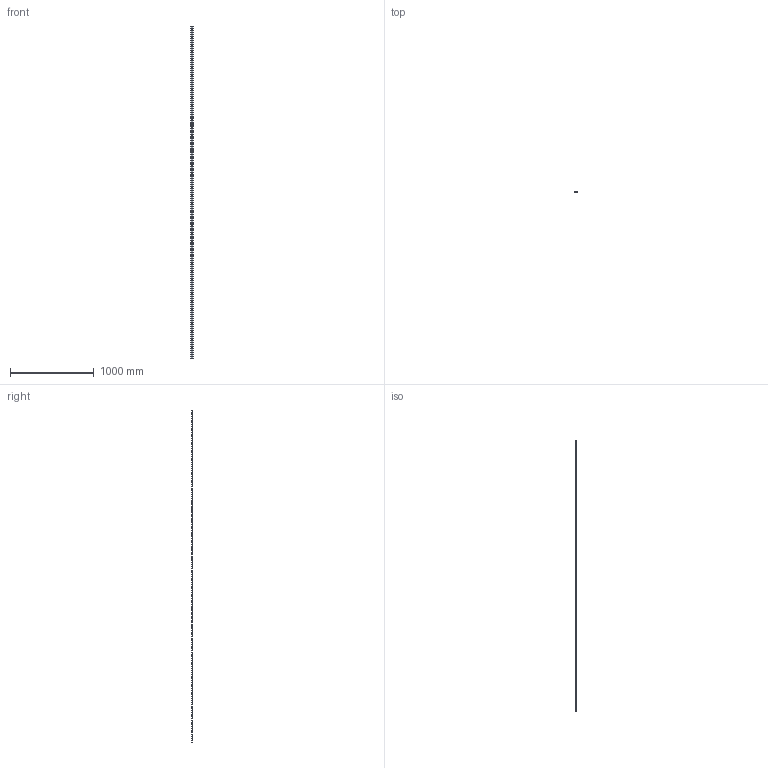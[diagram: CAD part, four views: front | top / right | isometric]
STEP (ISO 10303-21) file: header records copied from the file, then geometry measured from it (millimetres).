
FILE_DESCRIPTION(('STEP AP203'),'1');
FILE_NAME('flat_slide_sss253956.stp','2021-10-13T02:17:36',('TraceParts'),('TraceParts S.A.'),'Spatial InterOp 3D',' ',' ');
FILE_SCHEMA(('CONFIG_CONTROL_DESIGN'));
Length unit declared in the file: millimetre
Products named in the file (1): 1
Bounding box: 24.68 x 4.7 x 3956 mm (x, y, z)
Volume: 407390.8 mm3; surface area: 211674 mm2
Topology: 1 solids, 1 shells, 100 faces, 294 edges, 196 vertices
Faces by surface type: cylinder 92, plane 8
Entity records: 3662 total; most frequent: DIRECTION 680, CARTESIAN_POINT 591, ORIENTED_EDGE 588, EDGE_CURVE 294, AXIS2_PLACEMENT_3D 285, VERTEX_POINT 196, EDGE_LOOP 188, CIRCLE 184
